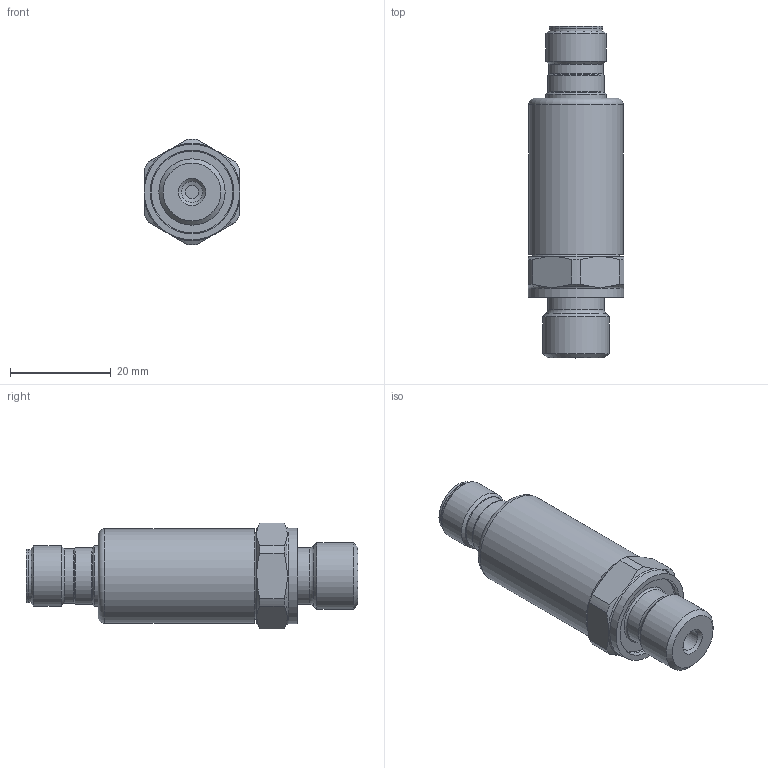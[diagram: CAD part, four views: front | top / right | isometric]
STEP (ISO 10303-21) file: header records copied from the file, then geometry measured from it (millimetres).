
FILE_DESCRIPTION( ( 'STEP AP214' ), ' ' );
FILE_NAME( 'p:/temp/worker_138/592_1704/app_40_02017102514584219339658192d056f_000000_00_00_000000/format_0/PU5400.stp', '2017-10-25T12:58:43', ( '' ), ( '' ), ' ', 'PARTsolutions', ' ' );
FILE_SCHEMA( ( 'AUTOMOTIVE_DESIGN { 1 0 10303 214 1 1 1 1 }' ) );
Length unit declared in the file: millimetre
Products named in the file (1): _PU5400
Bounding box: 19 x 65.8 x 20.99 mm (x, y, z)
Volume: 13252.3 mm3; surface area: 4541.4 mm2
Topology: 1 solids, 1 shells, 66 faces, 143 edges, 88 vertices
Faces by surface type: cylinder 21, plane 20, cone 16, torus 9
Full cylindrical faces by diameter (mm): 4.2 x1, 8.4 x1, 10.5 x1, 10.6 x1, 10.8 x1, 11.2 x1, 11.3 x1, 12 x2, 13.157 x1, 16.6 x1, 17.72 x1, 18.72 x1, 18.9 x1
Entity records: 2254 total; most frequent: CARTESIAN_POINT 415, DIRECTION 280, ORIENTED_EDGE 214, AXIS2_PLACEMENT_3D 130, EDGE_LOOP 108, EDGE_CURVE 107, FACE_OUTER_BOUND 89, VERTEX_POINT 85
